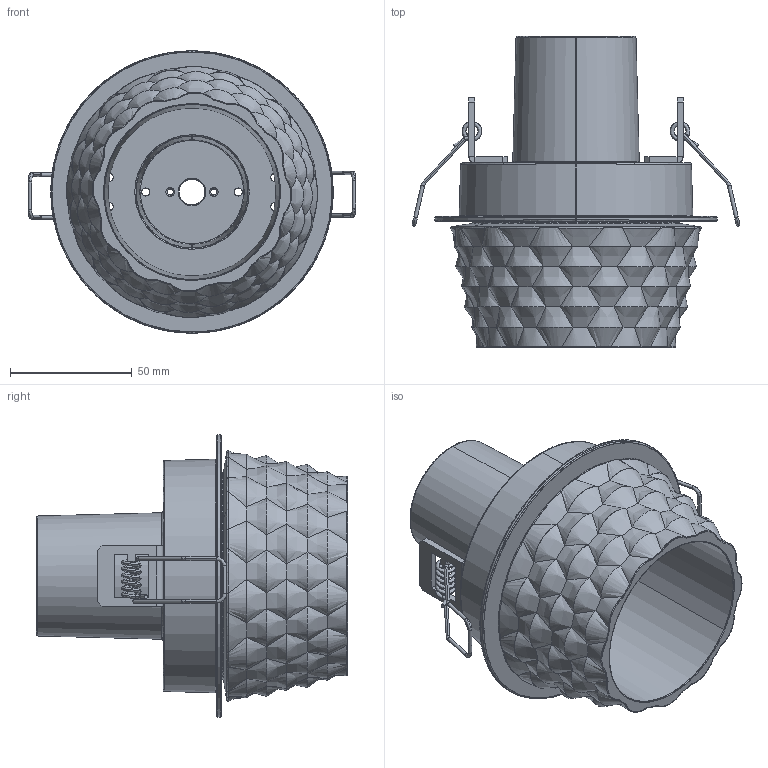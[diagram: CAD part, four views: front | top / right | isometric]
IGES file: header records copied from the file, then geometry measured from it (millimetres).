
Start section: SolidWorks IGES file using analytic representation for surfaces
Global section: file name: \\STORAGE\Tecnico Condiviso\1 FASCICOLI TECNICI\AXO DESIGN\AXO007-FEDORA\20150702-FEDORA CE\FA\SW\FAFEDORA-PER 3D.IGS; native system: SolidWorks 2024; preprocessor: SolidWorks 2024; author: tecnico3; date: 240529.124954; units: millimetre
Bounding box: 134.67 x 127.8 x 116.08 mm (x, y, z)
Surface area: 99439.7 mm2 (no closed solid volume)
Topology: 0 solids, 0 shells, 475 faces, 5623 edges, 5625 vertices
Faces by surface type: bspline 373, revolution 102
